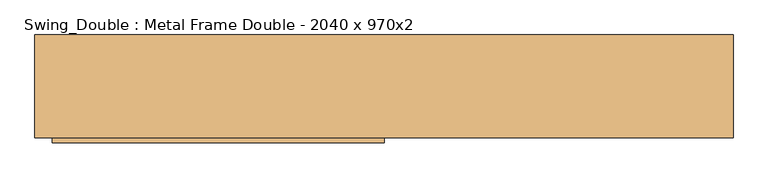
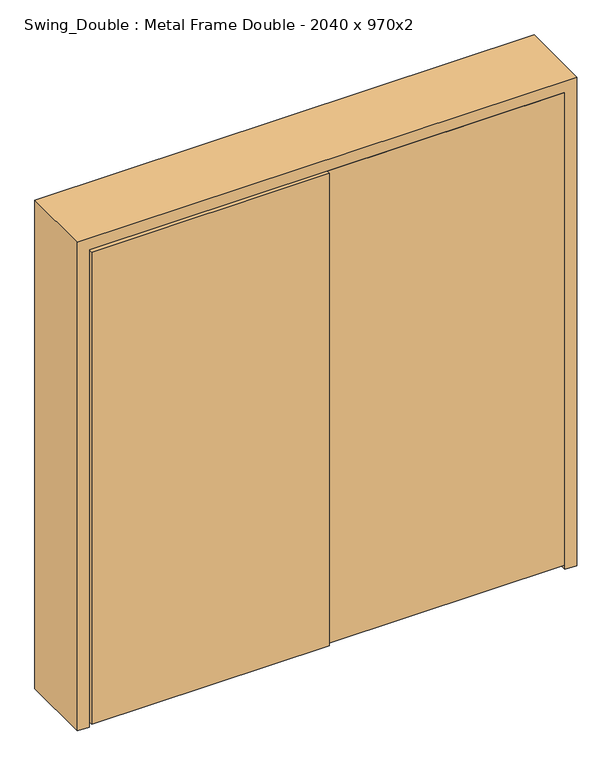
"""IFC4 building model written with IfcOpenShell, lengths in millimetres: door geometry, Swing_Double : Metal Frame Double - 2040 x 970x2."""

from ifc_helpers import new_model, si_unit, frame, origin, place, context, project, spatial, polyline, outline, extrude, faceted_brep, source, transform, mapped, element, save


def swing_double_metal_frame_double_2040_x_970x2_6dcf773a(model_context):
    return source(origin(), model_context, "Body", "SolidModel", [
        extrude(outline(polyline([(-211.5, -150.0), (-211.5, -110.0), (758.5, -110.0), (758.5, -150.0), (-211.5, -150.0)])), frame((0.0, 0.0, 20.0), z_axis=(0.0, 0.0, 1.0), x_axis=(1.0, 0.0, 0.0)), (0.0, 0.0, 1.0), 2040.0),
        extrude(outline(polyline([(-211.5, -165.0), (-1181.5, -165.0), (-1181.5, -125.0), (-211.5, -125.0), (-211.5, -165.0)])), frame((0.0, 0.0, 20.0), z_axis=(0.0, 0.0, 1.0), x_axis=(1.0, 0.0, 0.0)), (0.0, 0.0, 1.0), 2040.0),
        faceted_brep([(808.5, 150.0, 0.0), (808.5, -150.0, 0.0), (760.5, -150.0, 0.0), (760.5, -108.0, 0.0), (740.5, -108.0, 0.0), (740.5, 150.0, 0.0), (740.5, 150.0, 2042.0), (-1163.5, 150.0, 2042.0), (-1163.5, 150.0, 0.0), (-1231.5, 150.0, 0.0), (-1231.5, 150.0, 2110.0), (808.5, 150.0, 2110.0), (740.5, -108.0, 2042.0), (760.5, -108.0, 2062.0), (-1183.5, -108.0, 2062.0), (-1183.5, -108.0, 0.0), (-1163.5, -108.0, 0.0), (-1163.5, -108.0, 2042.0), (760.5, -150.0, 2062.0), (808.5, -150.0, 2110.0), (-1231.5, -150.0, 2110.0), (-1231.5, -150.0, 0.0), (-1183.5, -150.0, 0.0), (-1183.5, -150.0, 2062.0)], [[[0, 1, 2, 3, 4, 5]], [[5, 6, 7, 8, 9, 10, 11, 0]], [[4, 12, 6, 5]], [[3, 13, 14, 15, 16, 17, 12, 4]], [[2, 18, 13, 3]], [[1, 19, 20, 21, 22, 23, 18, 2]], [[0, 11, 19, 1]], [[23, 22, 15, 14]], [[9, 8, 16, 15, 22, 21]], [[10, 9, 21, 20]], [[17, 16, 8, 7]], [[11, 10, 20, 19]], [[18, 23, 14, 13]], [[12, 17, 7, 6]]]),
    ])


if __name__ == "__main__":
    model = new_model("IFC4")
    model_context = context("Model", 3, world=origin())
    ifc_project = project(units=[si_unit("LENGTHUNIT", "METRE", prefix="MILLI")], contexts=[model_context])
    site = spatial("IfcSite", under=ifc_project)
    building = spatial("IfcBuilding", under=site)
    placement = place(None, origin())
    swing_double_metal_frame_double_2040_x_970x2_shape = swing_double_metal_frame_double_2040_x_970x2_6dcf773a(model_context)
    element("IfcDoor", 1, ObjectType="Swing_Double : Metal Frame Double - 2040 x 970x2", at=placement, inside=building, context=model_context, shape_type="MappedRepresentation", body=[
        mapped(swing_double_metal_frame_double_2040_x_970x2_shape, transform((0.0, 0.0, 0.0), x_axis=(1.0, 0.0, 0.0), y_axis=(0.0, 1.0, 0.0), z_axis=(0.0, 0.0, 1.0))),
    ])
    save(model, "model.ifc")
